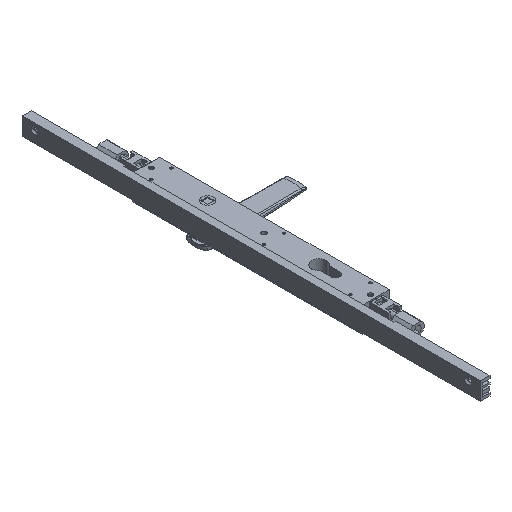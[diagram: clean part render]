
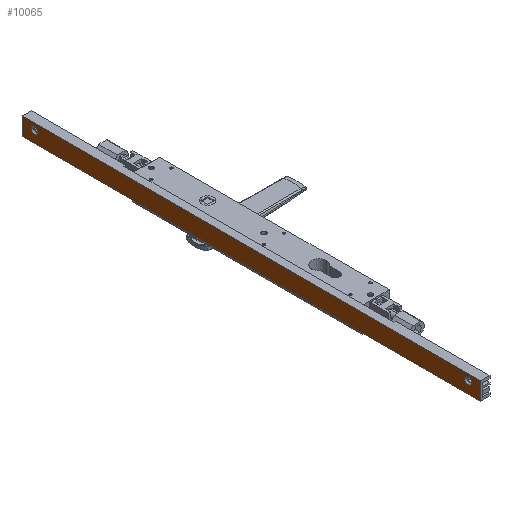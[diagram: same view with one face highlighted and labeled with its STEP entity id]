
A CAD part, isometric view. The second image highlights one B-rep face of the part: STEP entity #10065.
In plain terms, the highlighted planar face has unit normal (-1, 0, 0) as drawn and (0, 1, 0) by its records, which use the part's own axes.
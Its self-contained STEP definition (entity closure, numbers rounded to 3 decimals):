
#303 = ORIENTED_EDGE ( 'NONE', *, *, #26962, .F. ) ;
#412 = LINE ( 'NONE', #29777, #23522 ) ;
#582 = CIRCLE ( 'NONE', #21686, 4.216 ) ;
#918 = EDGE_LOOP ( 'NONE', ( #303, #9265 ) ) ;
#2254 = DIRECTION ( 'NONE',  ( 0., 0., 1. ) ) ;
#3379 = VERTEX_POINT ( 'NONE', #29323 ) ;
#3476 = ORIENTED_EDGE ( 'NONE', *, *, #18963, .F. ) ;
#3610 = DIRECTION ( 'NONE',  ( 0., 0., 1. ) ) ;
#3695 = CARTESIAN_POINT ( 'NONE',  ( 11.8, 12.4, 19.216 ) ) ;
#3779 = EDGE_CURVE ( 'NONE', #24189, #11538, #10669, .T. ) ;
#4015 = FACE_OUTER_BOUND ( 'NONE', #10079, .T. ) ;
#4082 = DIRECTION ( 'NONE',  ( 0., 1., 0. ) ) ;
#4568 = CIRCLE ( 'NONE', #15369, 4.216 ) ;
#4591 = ORIENTED_EDGE ( 'NONE', *, *, #25423, .F. ) ;
#5054 = DIRECTION ( 'NONE',  ( -1., 0., 0. ) ) ;
#5172 = DIRECTION ( 'NONE',  ( 0., 1., 0. ) ) ;
#6678 = DIRECTION ( 'NONE',  ( 0., 1., 0. ) ) ;
#7159 = VECTOR ( 'NONE', #11473, 1000. ) ;
#7504 = VERTEX_POINT ( 'NONE', #18073 ) ;
#8207 = CARTESIAN_POINT ( 'NONE',  ( -1.7, 12.4, 0. ) ) ;
#8419 = VERTEX_POINT ( 'NONE', #8207 ) ;
#9265 = ORIENTED_EDGE ( 'NONE', *, *, #21556, .F. ) ;
#9413 = CARTESIAN_POINT ( 'NONE',  ( 19.3, 12.4, 544. ) ) ;
#9975 = VERTEX_POINT ( 'NONE', #3695 ) ;
#10065 = ADVANCED_FACE ( 'NONE', ( #30651, #26139, #4015 ), #23210, .F. ) ;
#10079 = EDGE_LOOP ( 'NONE', ( #3476, #25136, #15020, #25109 ) ) ;
#10179 = CARTESIAN_POINT ( 'NONE',  ( 11.8, 12.4, 15. ) ) ;
#10669 = LINE ( 'NONE', #18129, #10860 ) ;
#10860 = VECTOR ( 'NONE', #29765, 1000. ) ;
#11156 = CARTESIAN_POINT ( 'NONE',  ( 11.8, 12.4, 533.216 ) ) ;
#11473 = DIRECTION ( 'NONE',  ( -1., 0., 0. ) ) ;
#11538 = VERTEX_POINT ( 'NONE', #22385 ) ;
#13447 = AXIS2_PLACEMENT_3D ( 'NONE', #27605, #5172, #2254 ) ;
#13838 = CARTESIAN_POINT ( 'NONE',  ( 20.8, 12.4, 544. ) ) ;
#14907 = EDGE_CURVE ( 'NONE', #11538, #8419, #23432, .T. ) ;
#15020 = ORIENTED_EDGE ( 'NONE', *, *, #14907, .T. ) ;
#15338 = LINE ( 'NONE', #27166, #18393 ) ;
#15369 = AXIS2_PLACEMENT_3D ( 'NONE', #10179, #19885, #22124 ) ;
#16177 = CARTESIAN_POINT ( 'NONE',  ( 20.8, 12.4, 0. ) ) ;
#18073 = CARTESIAN_POINT ( 'NONE',  ( 11.8, 12.4, 524.784 ) ) ;
#18129 = CARTESIAN_POINT ( 'NONE',  ( 19.3, 12.4, 544. ) ) ;
#18393 = VECTOR ( 'NONE', #5054, 1000. ) ;
#18465 = DIRECTION ( 'NONE',  ( 0., 0., 1. ) ) ;
#18538 = DIRECTION ( 'NONE',  ( 1., 0., 0. ) ) ;
#18963 = EDGE_CURVE ( 'NONE', #24189, #3379, #15338, .T. ) ;
#18999 = EDGE_LOOP ( 'NONE', ( #4591, #29448 ) ) ;
#19105 = CARTESIAN_POINT ( 'NONE',  ( 11.8, 12.4, 529. ) ) ;
#19289 = AXIS2_PLACEMENT_3D ( 'NONE', #13838, #30955, #18538 ) ;
#19885 = DIRECTION ( 'NONE',  ( 0., 1., 0. ) ) ;
#21556 = EDGE_CURVE ( 'NONE', #7504, #23381, #29317, .T. ) ;
#21686 = AXIS2_PLACEMENT_3D ( 'NONE', #19105, #6678, #3610 ) ;
#21858 = DIRECTION ( 'NONE',  ( 0., 0., -1. ) ) ;
#22124 = DIRECTION ( 'NONE',  ( 0., 0., 1. ) ) ;
#22385 = CARTESIAN_POINT ( 'NONE',  ( 19.3, 12.4, 0. ) ) ;
#23128 = CARTESIAN_POINT ( 'NONE',  ( 11.8, 12.4, 529. ) ) ;
#23210 = PLANE ( 'NONE',  #19289 ) ;
#23381 = VERTEX_POINT ( 'NONE', #11156 ) ;
#23432 = LINE ( 'NONE', #16177, #7159 ) ;
#23522 = VECTOR ( 'NONE', #21858, 1000. ) ;
#23623 = AXIS2_PLACEMENT_3D ( 'NONE', #23128, #4082, #18465 ) ;
#24189 = VERTEX_POINT ( 'NONE', #9413 ) ;
#24303 = EDGE_CURVE ( 'NONE', #3379, #8419, #412, .T. ) ;
#25109 = ORIENTED_EDGE ( 'NONE', *, *, #24303, .F. ) ;
#25136 = ORIENTED_EDGE ( 'NONE', *, *, #3779, .T. ) ;
#25423 = EDGE_CURVE ( 'NONE', #9975, #27553, #4568, .T. ) ;
#26096 = EDGE_CURVE ( 'NONE', #27553, #9975, #27413, .T. ) ;
#26139 = FACE_BOUND ( 'NONE', #918, .T. ) ;
#26962 = EDGE_CURVE ( 'NONE', #23381, #7504, #582, .T. ) ;
#27166 = CARTESIAN_POINT ( 'NONE',  ( 20.8, 12.4, 544. ) ) ;
#27413 = CIRCLE ( 'NONE', #13447, 4.216 ) ;
#27553 = VERTEX_POINT ( 'NONE', #28675 ) ;
#27605 = CARTESIAN_POINT ( 'NONE',  ( 11.8, 12.4, 15. ) ) ;
#28675 = CARTESIAN_POINT ( 'NONE',  ( 11.8, 12.4, 10.784 ) ) ;
#29317 = CIRCLE ( 'NONE', #23623, 4.216 ) ;
#29323 = CARTESIAN_POINT ( 'NONE',  ( -1.7, 12.4, 544. ) ) ;
#29448 = ORIENTED_EDGE ( 'NONE', *, *, #26096, .F. ) ;
#29765 = DIRECTION ( 'NONE',  ( 0., 0., -1. ) ) ;
#29777 = CARTESIAN_POINT ( 'NONE',  ( -1.7, 12.4, 544. ) ) ;
#30651 = FACE_BOUND ( 'NONE', #18999, .T. ) ;
#30955 = DIRECTION ( 'NONE',  ( 0., -1., 0. ) ) ;
